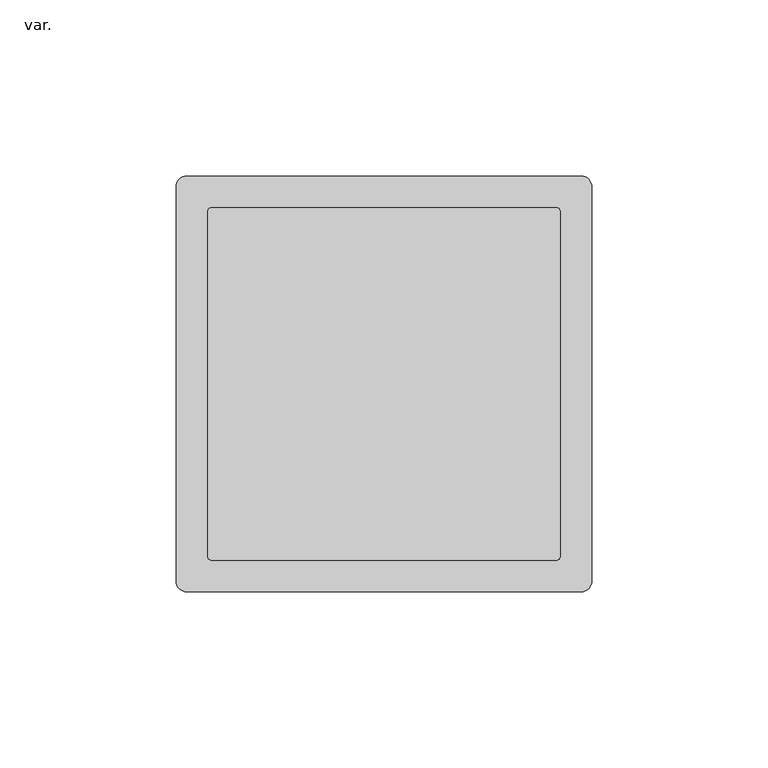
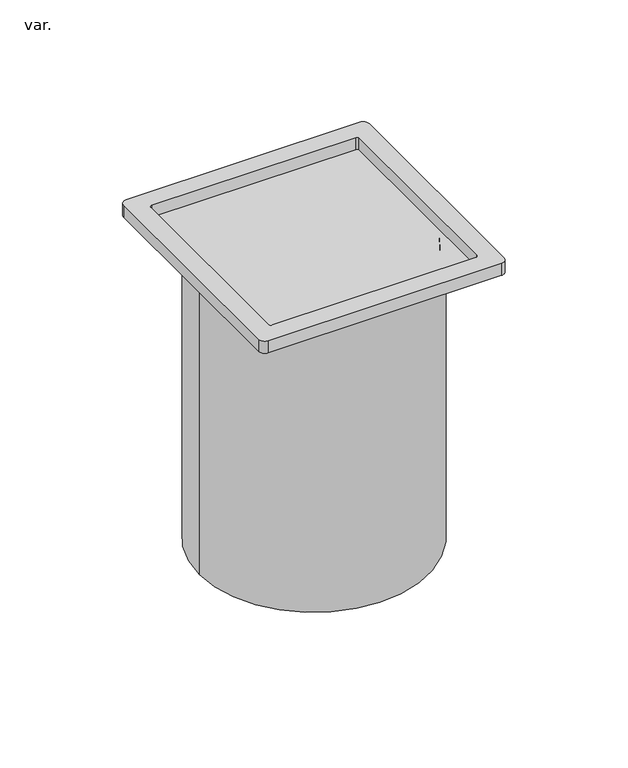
"""IFC4 building model written with IfcOpenShell, lengths in millimetres: pipe fitting geometry, AmancoWavin_Unionesdetubería_PVCNivel1ZNoUsarMarcoPortarrejillaparaPiletadePatioPP : var.."""

from ifc_helpers import new_model, si_unit, frame, origin, place, context, project, spatial, polyline, circle_curve, source, transform, mapped, element, save
from ifc_brep_helpers import plane_surface, cylinder_surface, revolved_surface, advanced_brep


def var_98ae49b5(model_context):
    return source(origin(), model_context, "Body", "AdvancedBrep", [
        advanced_brep(
        [(-13.2453589, 59.0, 6.2), (-125.2453589, 59.0, 6.2), (-128.2453589, 56.0, 6.2), (-128.2453589, -56.0, 6.2), (-125.2453589, -59.0, 6.2), (-13.2453589, -59.0, 6.2), (-10.2453589, -56.0, 6.2), (-10.2453589, 56.0, 6.2), (-119.2453589, 49.0, 6.2), (-118.2453589, 50.0, 6.2), (-20.2453589, 50.0, 6.2), (-19.2453589, 49.0, 6.2), (-19.2453589, -49.0, 6.2), (-20.2453589, -50.0, 6.2), (-118.2453589, -50.0, 6.2), (-119.2453589, -49.0, 6.2), (-13.2453589, 59.0, 0.0), (-10.2453589, 56.0, 0.0), (-10.2453589, -56.0, 0.0), (-13.2453589, -59.0, 0.0), (-125.2453589, -59.0, 0.0), (-128.2453589, -56.0, 0.0), (-128.2453589, 56.0, 0.0), (-125.2453589, 59.0, 0.0), (-118.2453589, 50.0, 0.2), (-119.2453589, 49.0, 0.2), (-119.2453589, -49.0, 0.2), (-118.2453589, -50.0, 0.2), (-20.2453589, -50.0, 0.2), (-19.2453589, -49.0, 0.2), (-19.2453589, 49.0, 0.2), (-20.2453589, 50.0, 0.2)],
        [
            (0, 1),
            (1, 2, circle_curve(frame((-125.2453589, 56.0, 6.2), z_axis=(0.0, 0.0, 1.0), x_axis=(1.0, 0.0, 0.0)), 3.0)),
            (2, 3),
            (3, 4, circle_curve(frame((-125.2453589, -56.0, 6.2), z_axis=(0.0, 0.0, 1.0), x_axis=(1.0, 0.0, 0.0)), 3.0)),
            (4, 5),
            (5, 6, circle_curve(frame((-13.2453589, -56.0, 6.2), z_axis=(0.0, 0.0, 1.0), x_axis=(1.0, 0.0, 0.0)), 3.0)),
            (6, 7),
            (7, 0, circle_curve(frame((-13.2453589, 56.0, 6.2), z_axis=(0.0, 0.0, 1.0), x_axis=(1.0, 0.0, 0.0)), 3.0)),
            (8, 9, circle_curve(frame((-118.2453589, 49.0, 6.2), z_axis=(0.0, 0.0, -1.0), x_axis=(1.0, 0.0, 0.0)), 1.0)),
            (9, 10),
            (10, 11, circle_curve(frame((-20.2453589, 49.0, 6.2), z_axis=(0.0, 0.0, -1.0), x_axis=(1.0, 0.0, 0.0)), 1.0)),
            (11, 12),
            (12, 13, circle_curve(frame((-20.2453589, -49.0, 6.2), z_axis=(0.0, 0.0, -1.0), x_axis=(1.0, 0.0, 0.0)), 1.0)),
            (13, 14),
            (14, 15, circle_curve(frame((-118.2453589, -49.0, 6.2), z_axis=(0.0, 0.0, -1.0), x_axis=(1.0, 0.0, 0.0)), 1.0)),
            (15, 8),
            (16, 17, circle_curve(frame((-13.2453589, 56.0, 0.0), z_axis=(0.0, 0.0, -1.0), x_axis=(1.0, 0.0, 0.0)), 3.0)),
            (17, 18),
            (18, 19, circle_curve(frame((-13.2453589, -56.0, 0.0), z_axis=(0.0, 0.0, -1.0), x_axis=(1.0, 0.0, 0.0)), 3.0)),
            (19, 20),
            (20, 21, circle_curve(frame((-125.2453589, -56.0, 0.0), z_axis=(0.0, 0.0, -1.0), x_axis=(1.0, 0.0, 0.0)), 3.0)),
            (21, 22),
            (22, 23, circle_curve(frame((-125.2453589, 56.0, 0.0), z_axis=(0.0, 0.0, -1.0), x_axis=(1.0, 0.0, 0.0)), 3.0)),
            (23, 16),
            (0, 16),
            (23, 1),
            (22, 2),
            (21, 3),
            (20, 4),
            (19, 5),
            (18, 6),
            (17, 7),
            (24, 25, circle_curve(frame((-118.2453589, 49.0, 0.2), z_axis=(0.0, 0.0, 1.0), x_axis=(1.0, 0.0, 0.0)), 1.0)),
            (25, 26),
            (26, 27, circle_curve(frame((-118.2453589, -49.0, 0.2), z_axis=(0.0, 0.0, 1.0), x_axis=(1.0, 0.0, 0.0)), 1.0)),
            (27, 28),
            (28, 29, circle_curve(frame((-20.2453589, -49.0, 0.2), z_axis=(0.0, 0.0, 1.0), x_axis=(1.0, 0.0, 0.0)), 1.0)),
            (29, 30),
            (30, 31, circle_curve(frame((-20.2453589, 49.0, 0.2), z_axis=(0.0, 0.0, 1.0), x_axis=(1.0, 0.0, 0.0)), 1.0)),
            (31, 24),
            (24, 9),
            (8, 25),
            (15, 26),
            (14, 27),
            (13, 28),
            (12, 29),
            (11, 30),
            (10, 31),
        ],
        [
            plane_surface(frame((-125.2453589, 59.0, 6.2), z_axis=(0.0, 0.0, 1.0), x_axis=(-1.0, 0.0, 0.0))),
            plane_surface(frame((-125.2453589, 59.0, 0.0), z_axis=(0.0, 0.0, -1.0), x_axis=(1.0, 0.0, 0.0))),
            plane_surface(frame((-13.2453589, 59.0, 6.2), z_axis=(0.0, 1.0, 0.0), x_axis=(0.0, 0.0, -1.0))),
            cylinder_surface(frame((-125.2453589, 56.0, 0.0), z_axis=(0.0, 0.0, 1.0), x_axis=(1.0, 0.0, 0.0)), 3.0),
            plane_surface(frame((-128.2453589, 56.0, 6.2), z_axis=(-1.0, 0.0, 0.0), x_axis=(0.0, 0.0, -1.0))),
            cylinder_surface(frame((-125.2453589, -56.0, 0.0), z_axis=(0.0, 0.0, 1.0), x_axis=(1.0, 0.0, 0.0)), 3.0),
            plane_surface(frame((-125.2453589, -59.0, 6.2), z_axis=(0.0, -1.0, 0.0), x_axis=(0.0, 0.0, -1.0))),
            cylinder_surface(frame((-13.2453589, -56.0, 0.0), z_axis=(0.0, 0.0, 1.0), x_axis=(1.0, 0.0, 0.0)), 3.0),
            plane_surface(frame((-10.2453589, -56.0, 6.2), z_axis=(1.0, 0.0, 0.0), x_axis=(0.0, 0.0, -1.0))),
            cylinder_surface(frame((-13.2453589, 56.0, 0.0), z_axis=(0.0, 0.0, 1.0), x_axis=(1.0, 0.0, 0.0)), 3.0),
            plane_surface(frame((-117.2453589, 49.0, 0.2), z_axis=(0.0, 0.0, 1.0), x_axis=(0.0, -1.0, 0.0))),
            revolved_surface(polyline([(-117.2453589, 49.0, 6.2), (-117.2453589, 49.0, 0.2)]), (-118.2453589, 49.0, 0.2), (0.0, 0.0, 1.0)),
            plane_surface(frame((-119.2453589, 49.0, 6.2), z_axis=(1.0, 0.0, 0.0), x_axis=(0.0, 0.0, -1.0))),
            revolved_surface(polyline([(-117.2453589, -49.0, 6.2), (-117.2453589, -49.0, 0.2)]), (-118.2453589, -49.0, 0.2), (0.0, 0.0, 1.0)),
            plane_surface(frame((-118.2453589, -50.0, 6.2), z_axis=(0.0, 1.0, 0.0), x_axis=(0.0, 0.0, -1.0))),
            revolved_surface(polyline([(-19.2453589, -49.0, 6.2), (-19.2453589, -49.0, 0.2)]), (-20.2453589, -49.0, 0.2), (0.0, 0.0, 1.0)),
            plane_surface(frame((-19.2453589, -49.0, 6.2), z_axis=(-1.0, 0.0, 0.0), x_axis=(0.0, 0.0, -1.0))),
            revolved_surface(polyline([(-19.2453589, 49.0, 6.2), (-19.2453589, 49.0, 0.2)]), (-20.2453589, 49.0, 0.2), (0.0, 0.0, 1.0)),
            plane_surface(frame((-20.2453589, 50.0, 6.2), z_axis=(0.0, -1.0, 0.0), x_axis=(0.0, 0.0, -1.0))),
        ],
        [
            (0, [[1, 2, 3, 4, 5, 6, 7, 8], [9, 10, 11, 12, 13, 14, 15, 16]]),
            (1, [[17, 18, 19, 20, 21, 22, 23, 24]]),
            (2, [[-1, 25, -24, 26]]),
            (3, [[-2, -26, -23, 27]]),
            (4, [[-3, -27, -22, 28]]),
            (5, [[-4, -28, -21, 29]]),
            (6, [[-5, -29, -20, 30]]),
            (7, [[-6, -30, -19, 31]]),
            (8, [[-7, -31, -18, 32]]),
            (9, [[-8, -32, -17, -25]]),
            (10, [[33, 34, 35, 36, 37, 38, 39, 40]]),
            (11, [[-33, 41, -9, 42]]),
            (12, [[-34, -42, -16, 43]]),
            (13, [[-35, -43, -15, 44]]),
            (14, [[-36, -44, -14, 45]]),
            (15, [[-37, -45, -13, 46]]),
            (16, [[-38, -46, -12, 47]]),
            (17, [[-39, -47, -11, 48]]),
            (18, [[-40, -48, -10, -41]]),
        ],
    ),
        advanced_brep(
        [(-14.2453589, 0.0, -148.7), (-124.2453589, 0.0, -148.7), (-121.7453589, 0.0, -148.7), (-16.7453589, 0.0, -148.7), (-14.2453589, 0.0, 0.0), (-124.2453589, 0.0, 0.0), (-16.7453589, 0.0, 0.0), (-121.7453589, 0.0, 0.0)],
        [
            (0, 1, circle_curve(frame((-69.2453589, 0.0, -148.7), z_axis=(0.0, 0.0, -1.0), x_axis=(-1.0, 0.0, 0.0)), 55.0)),
            (1, 2),
            (2, 3, circle_curve(frame((-69.2453589, 0.0, -148.7), z_axis=(0.0, 0.0, 1.0), x_axis=(-1.0, 0.0, 0.0)), 52.5)),
            (3, 0),
            (1, 0, circle_curve(frame((-69.2453589, 0.0, -148.7), z_axis=(0.0, 0.0, -1.0), x_axis=(-1.0, 0.0, 0.0)), 55.0)),
            (3, 2, circle_curve(frame((-69.2453589, 0.0, -148.7), z_axis=(0.0, 0.0, 1.0), x_axis=(-1.0, 0.0, 0.0)), 52.5)),
            (4, 5, circle_curve(frame((-69.2453589, 0.0, 0.0), z_axis=(0.0, 0.0, -1.0), x_axis=(-1.0, 0.0, 0.0)), 55.0)),
            (5, 1),
            (0, 4),
            (5, 4, circle_curve(frame((-69.2453589, 0.0, 0.0), z_axis=(0.0, 0.0, -1.0), x_axis=(-1.0, 0.0, 0.0)), 55.0)),
            (6, 7, circle_curve(frame((-69.2453589, 0.0, 0.0), z_axis=(0.0, 0.0, -1.0), x_axis=(-1.0, 0.0, 0.0)), 52.5)),
            (7, 5),
            (4, 6),
            (7, 6, circle_curve(frame((-69.2453589, 0.0, 0.0), z_axis=(0.0, 0.0, -1.0), x_axis=(-1.0, 0.0, 0.0)), 52.5)),
            (2, 7),
            (6, 3),
        ],
        [
            plane_surface(frame((-69.2453589, 0.0, -148.7), z_axis=(0.0, 0.0, -1.0), x_axis=(-1.0, 0.0, 0.0))),
            cylinder_surface(frame((-69.2453589, 0.0, -2321.5150031), z_axis=(0.0, 0.0, 1.0), x_axis=(-1.0, 0.0, 0.0)), 55.0),
            plane_surface(frame((-69.2453589, 0.0, 0.0), z_axis=(0.0, 0.0, 1.0), x_axis=(-1.0, 0.0, 0.0))),
            revolved_surface(polyline([(-121.7453589, 0.0, 0.0), (-121.7453589, 0.0, -148.69999999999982)]), (-69.2453589, 0.0, -2321.5150031), (0.0, 0.0, 1.0)),
        ],
        [
            (0, [[1, 2, 3, 4]]),
            (0, [[5, -4, 6, -2]]),
            (1, [[7, 8, -1, 9]]),
            (1, [[10, -9, -5, -8]]),
            (2, [[11, 12, -7, 13]]),
            (2, [[14, -13, -10, -12]]),
            (3, [[-3, 15, -11, 16]]),
            (3, [[-6, -16, -14, -15]]),
        ],
    ),
    ])


if __name__ == "__main__":
    model = new_model("IFC4")
    model_context = context("Model", 3, world=origin())
    ifc_project = project(units=[si_unit("LENGTHUNIT", "METRE", prefix="MILLI")], contexts=[model_context])
    site = spatial("IfcSite", under=ifc_project)
    building = spatial("IfcBuilding", under=site)
    placement = place(None, origin())
    var_shape = var_98ae49b5(model_context)
    element("IfcPipeFitting", 1, ObjectType="AmancoWavin_Unionesdetubería_PVCNivel1ZNoUsarMarcoPortarrejillaparaPiletadePatioPP : var.", at=placement, inside=building, context=model_context, shape_type="MappedRepresentation", body=[
        mapped(var_shape, transform((0.0, 0.0, 0.0), x_axis=(1.0, 0.0, 0.0), y_axis=(0.0, 1.0, 0.0), z_axis=(0.0, 0.0, 1.0))),
    ])
    save(model, "model.ifc")
